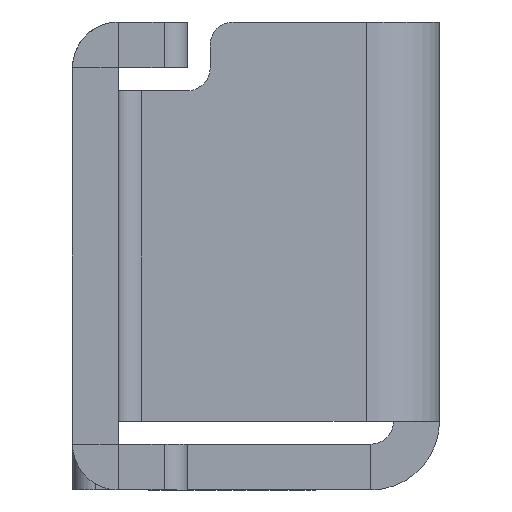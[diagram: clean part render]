
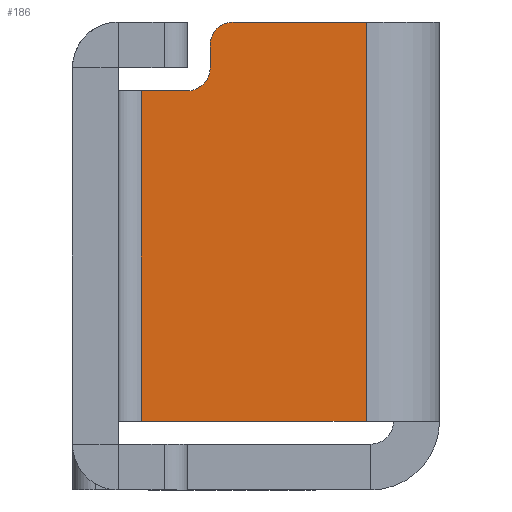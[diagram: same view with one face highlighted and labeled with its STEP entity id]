
A CAD part, left-side view. The second image highlights one B-rep face of the part: STEP entity #186.
In plain terms, the highlighted planar face has unit normal (-1, 0, 0).
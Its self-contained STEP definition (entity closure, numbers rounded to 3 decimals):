
#1 = LINE ( 'NONE', #463, #1310 ) ;
#6 = CARTESIAN_POINT ( 'NONE',  ( -13.6, 4., 4.6 ) ) ;
#13 = ORIENTED_EDGE ( 'NONE', *, *, #1918, .T. ) ;
#20 = AXIS2_PLACEMENT_3D ( 'NONE', #874, #2180, #2969 ) ;
#37 = FACE_OUTER_BOUND ( 'NONE', #2489, .T. ) ;
#52 = LINE ( 'NONE', #2863, #778 ) ;
#129 = ORIENTED_EDGE ( 'NONE', *, *, #1596, .T. ) ;
#186 = ADVANCED_FACE ( 'NONE', ( #37 ), #280, .T. ) ;
#280 = PLANE ( 'NONE',  #2256 ) ;
#304 = CARTESIAN_POINT ( 'NONE',  ( -13.6, 0.6, -3.6 ) ) ;
#339 = CARTESIAN_POINT ( 'NONE',  ( -13.6, 4.5, 3.6 ) ) ;
#414 = EDGE_CURVE ( 'NONE', #1000, #2616, #1706, .T. ) ;
#463 = CARTESIAN_POINT ( 'NONE',  ( -13.6, 7., -3.6 ) ) ;
#507 = VECTOR ( 'NONE', #1220, 1000. ) ;
#573 = CARTESIAN_POINT ( 'NONE',  ( -13.6, 0.6, 0. ) ) ;
#672 = VERTEX_POINT ( 'NONE', #1400 ) ;
#770 = EDGE_CURVE ( 'NONE', #672, #1755, #2217, .T. ) ;
#778 = VECTOR ( 'NONE', #807, 1000. ) ;
#807 = DIRECTION ( 'NONE',  ( 0., 1., 0. ) ) ;
#812 = CARTESIAN_POINT ( 'NONE',  ( -13.6, 5.5, -3.6 ) ) ;
#820 = ORIENTED_EDGE ( 'NONE', *, *, #414, .F. ) ;
#821 = DIRECTION ( 'NONE',  ( -1., 0., 0. ) ) ;
#874 = CARTESIAN_POINT ( 'NONE',  ( -13.6, 3.5, 4.6 ) ) ;
#898 = ORIENTED_EDGE ( 'NONE', *, *, #770, .F. ) ;
#983 = CARTESIAN_POINT ( 'NONE',  ( -13.6, 4., 0. ) ) ;
#1000 = VERTEX_POINT ( 'NONE', #1572 ) ;
#1117 = VERTEX_POINT ( 'NONE', #339 ) ;
#1172 = DIRECTION ( 'NONE',  ( 0., -1., 0. ) ) ;
#1207 = ORIENTED_EDGE ( 'NONE', *, *, #2329, .T. ) ;
#1220 = DIRECTION ( 'NONE',  ( 0., 0., 1. ) ) ;
#1310 = VECTOR ( 'NONE', #2982, 1000. ) ;
#1400 = CARTESIAN_POINT ( 'NONE',  ( -13.6, 3.5, 5.1 ) ) ;
#1420 = AXIS2_PLACEMENT_3D ( 'NONE', #2398, #1469, #2752 ) ;
#1469 = DIRECTION ( 'NONE',  ( 1., 0., 0. ) ) ;
#1502 = EDGE_CURVE ( 'NONE', #2787, #1755, #1834, .T. ) ;
#1572 = CARTESIAN_POINT ( 'NONE',  ( -13.6, 4., 4.1 ) ) ;
#1596 = EDGE_CURVE ( 'NONE', #672, #2616, #1734, .T. ) ;
#1605 = DIRECTION ( 'NONE',  ( 0., 0., 1. ) ) ;
#1706 = LINE ( 'NONE', #983, #3163 ) ;
#1708 = EDGE_CURVE ( 'NONE', #2787, #2713, #1, .T. ) ;
#1734 = CIRCLE ( 'NONE', #20, 0.5 ) ;
#1755 = VERTEX_POINT ( 'NONE', #2610 ) ;
#1834 = LINE ( 'NONE', #573, #2797 ) ;
#1918 = EDGE_CURVE ( 'NONE', #1000, #1117, #3129, .T. ) ;
#2067 = LINE ( 'NONE', #3004, #507 ) ;
#2137 = ORIENTED_EDGE ( 'NONE', *, *, #1708, .F. ) ;
#2157 = VECTOR ( 'NONE', #1172, 1000. ) ;
#2180 = DIRECTION ( 'NONE',  ( -1., 0., 0. ) ) ;
#2217 = LINE ( 'NONE', #3244, #2157 ) ;
#2222 = EDGE_CURVE ( 'NONE', #2713, #2919, #2067, .T. ) ;
#2256 = AXIS2_PLACEMENT_3D ( 'NONE', #2760, #821, #2264 ) ;
#2264 = DIRECTION ( 'NONE',  ( 0., -1., 0. ) ) ;
#2329 = EDGE_CURVE ( 'NONE', #1117, #2919, #52, .T. ) ;
#2398 = CARTESIAN_POINT ( 'NONE',  ( -13.6, 4.5, 4.1 ) ) ;
#2442 = DIRECTION ( 'NONE',  ( 0., 0., 1. ) ) ;
#2449 = ORIENTED_EDGE ( 'NONE', *, *, #2222, .F. ) ;
#2489 = EDGE_LOOP ( 'NONE', ( #898, #129, #820, #13, #1207, #2449, #2137, #3046 ) ) ;
#2610 = CARTESIAN_POINT ( 'NONE',  ( -13.6, 0.6, 5.1 ) ) ;
#2616 = VERTEX_POINT ( 'NONE', #6 ) ;
#2696 = CARTESIAN_POINT ( 'NONE',  ( -13.6, 5.5, 3.6 ) ) ;
#2713 = VERTEX_POINT ( 'NONE', #812 ) ;
#2752 = DIRECTION ( 'NONE',  ( 0., -1., 0. ) ) ;
#2760 = CARTESIAN_POINT ( 'NONE',  ( -13.6, 0., 0. ) ) ;
#2787 = VERTEX_POINT ( 'NONE', #304 ) ;
#2797 = VECTOR ( 'NONE', #1605, 1000. ) ;
#2863 = CARTESIAN_POINT ( 'NONE',  ( -13.6, 0., 3.6 ) ) ;
#2919 = VERTEX_POINT ( 'NONE', #2696 ) ;
#2969 = DIRECTION ( 'NONE',  ( 0., -1., 0. ) ) ;
#2982 = DIRECTION ( 'NONE',  ( 0., 1., 0. ) ) ;
#3004 = CARTESIAN_POINT ( 'NONE',  ( -13.6, 5.5, -3.6 ) ) ;
#3046 = ORIENTED_EDGE ( 'NONE', *, *, #1502, .T. ) ;
#3129 = CIRCLE ( 'NONE', #1420, 0.5 ) ;
#3163 = VECTOR ( 'NONE', #2442, 1000. ) ;
#3244 = CARTESIAN_POINT ( 'NONE',  ( -13.6, 0., 5.1 ) ) ;
